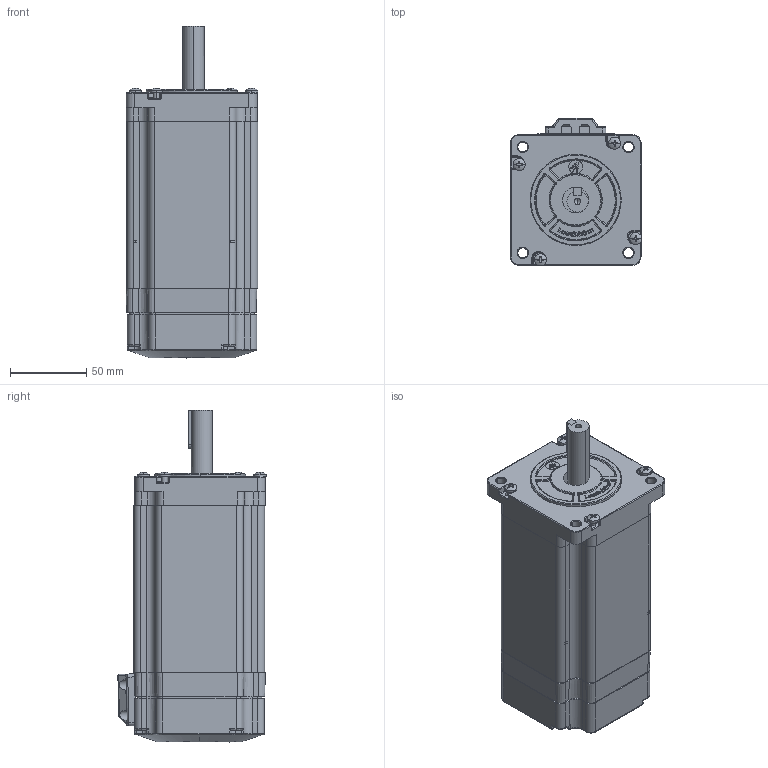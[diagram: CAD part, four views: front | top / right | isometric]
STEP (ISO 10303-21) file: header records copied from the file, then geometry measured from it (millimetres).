
FILE_DESCRIPTION (( 'STEP AP203' ), '1' );
FILE_NAME ('CS-M23485B_3D.STEP', '2019-12-23T01:18:30', ( 'hwtest' ), ( 'Microsoft' ), 'SwSTEP 2.0', 'SolidWorks 2014', '' );
FILE_SCHEMA (( 'CONFIG_CONTROL_DESIGN' ));
Length unit declared in the file: millimetre
Products named in the file (1): CS-M23485B_3D
Bounding box: 86.74 x 97.49 x 218.37 mm (x, y, z)
Volume: 858599.6 mm3; surface area: 168849.8 mm2
Topology: 26 solids, 26 shells, 1609 faces, 4264 edges, 2749 vertices
Faces by surface type: plane 660, cylinder 597, bspline 256, sphere 56, cone 40
Entity records: 59312 total; most frequent: CARTESIAN_POINT 20601, ORIENTED_EDGE 8430, DIRECTION 7607, EDGE_CURVE 4215, VERTEX_POINT 2728, AXIS2_PLACEMENT_3D 2697, VECTOR 2213, LINE 2213
